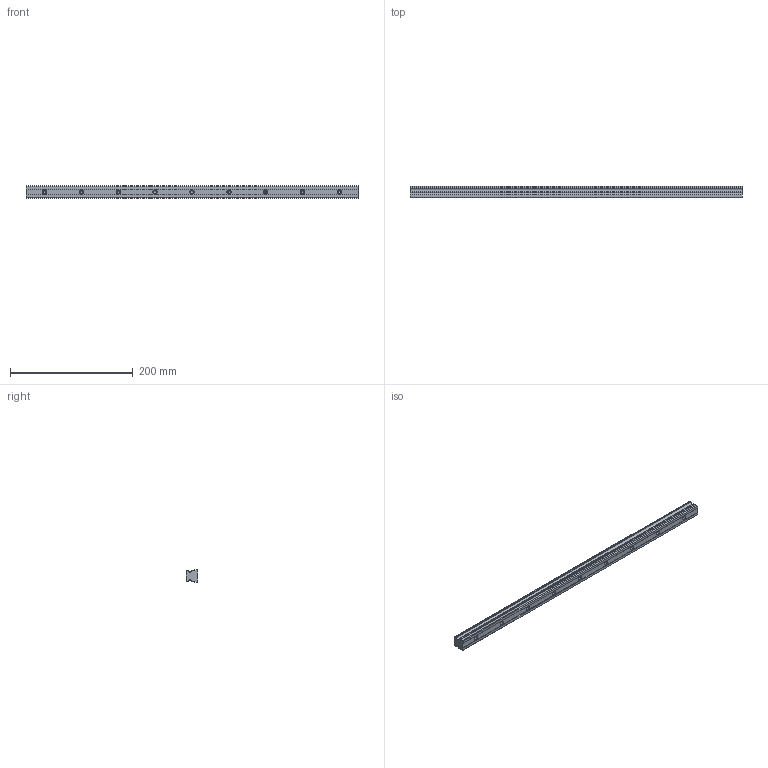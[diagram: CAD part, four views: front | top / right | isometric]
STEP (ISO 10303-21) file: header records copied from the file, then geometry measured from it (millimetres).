
FILE_DESCRIPTION (( 'STEP AP203' ), '1' );
FILE_NAME ('L1018.20R-0540.step', '2023-08-06T09:05:25', ( '' ), ( '' ), 'SwSTEP 2.0', 'SolidWorks 2019', '' );
FILE_SCHEMA (( 'CONFIG_CONTROL_DESIGN' ));
Length unit declared in the file: millimetre
Products named in the file (1): L1018.20R-0540
Bounding box: 540 x 19.3 x 20 mm (x, y, z)
Volume: 171249.3 mm3; surface area: 46217.3 mm2
Topology: 1 solids, 1 shells, 110 faces, 261 edges, 153 vertices
Faces by surface type: cylinder 39, cone 36, plane 35
Entity records: 3104 total; most frequent: DIRECTION 561, CARTESIAN_POINT 507, ORIENTED_EDGE 486, EDGE_CURVE 243, AXIS2_PLACEMENT_3D 207, VERTEX_POINT 153, VECTOR 147, LINE 147
